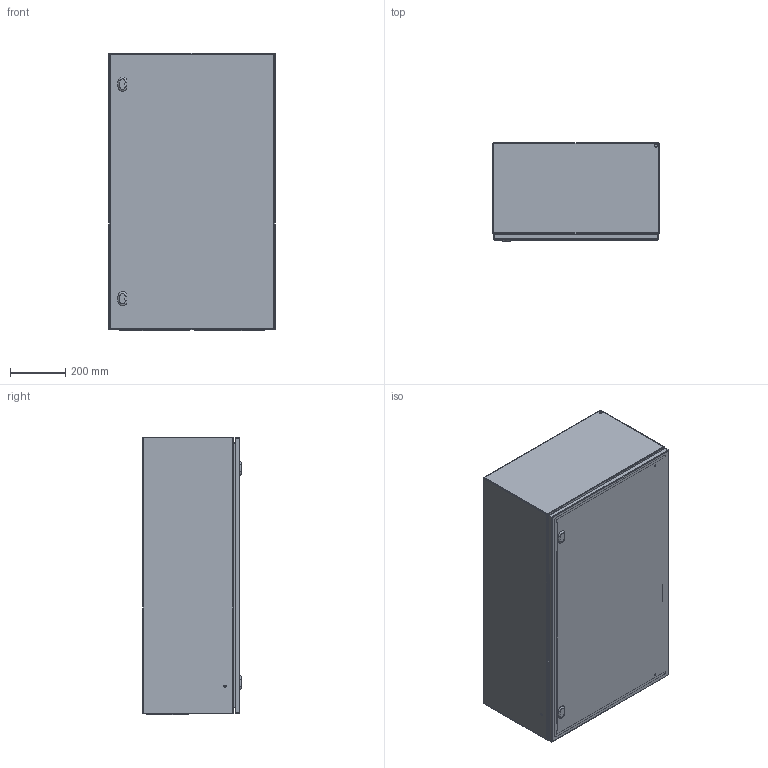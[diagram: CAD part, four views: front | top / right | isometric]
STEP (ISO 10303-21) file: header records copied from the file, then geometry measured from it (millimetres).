
FILE_DESCRIPTION(/* description */ ('STEP AP214'),/* implementation_level */ '2;1');
FILE_NAME(/* name */ 'EC061035-LOD400',/* time_stamp */ '2025-08-01T08:32:39+02:00',/* author */ ('License CC BY-ND 4.0'),/* organization */ ('CADENAS'),/* preprocessor_version */ 'ST-DEVELOPER v19.3',/* originating_system */ 'PARTsolutions',/* authorisation */ ' ');
FILE_SCHEMA (('AUTOMOTIVE_DESIGN {1 0 10303 214 3 1 1}'));
Length unit declared in the file: millimetre
Products named in the file (5): EC061035-LOD400; EC061035-LOD400_cabinet; EC061035-LOD400_door; EC061035-LOD400_bottom_plate; EC061035-LOD400_inner_plate
Assembly tree (5 placements, depth 2):
  EC061035-LOD400
    EC061035-LOD400_cabinet
    EC061035-LOD400_door
    EC061035-LOD400_bottom_plate  x2
    EC061035-LOD400_inner_plate
Bounding box: 600 x 355 x 1004 mm (x, y, z)
Volume: 5362222.5 mm3; surface area: 6084928.6 mm2
Topology: 5 solids, 5 shells, 730 faces, 1792 edges, 1166 vertices
Faces by surface type: cylinder 308, plane 264, torus 80, cone 78
Full cylindrical faces by diameter (mm): 1 x64, 4.5 x86, 5 x4, 5.5 x4, 6 x4, 7 x4, 8 x12, 10 x10, 14 x4
Entity records: 16259 total; most frequent: DIRECTION 2956, CARTESIAN_POINT 2616, ORIENTED_EDGE 2332, AXIS2_PLACEMENT_3D 1218, EDGE_CURVE 1166, EDGE_LOOP 1072, FACE_BOUND 1072, VERTEX_POINT 878
